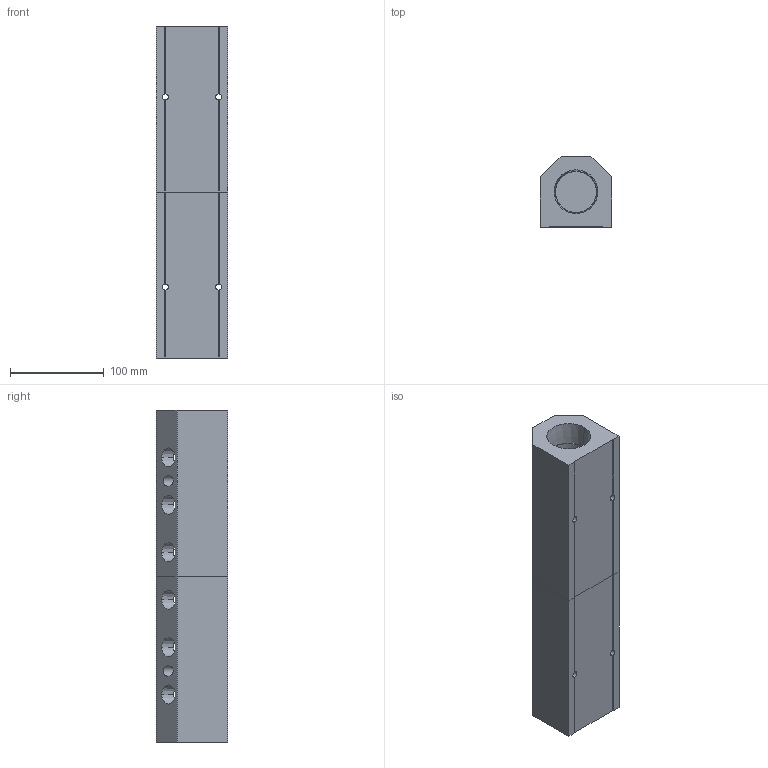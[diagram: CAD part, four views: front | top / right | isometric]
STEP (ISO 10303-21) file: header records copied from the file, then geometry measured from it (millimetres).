
FILE_DESCRIPTION (( 'STEP AP214' ), '1' );
FILE_NAME ('ALM6BCD-N8N24-355RB.step', '2022-02-07T09:39:42', ( '' ), ( '' ), 'SwSTEP 2.0', 'SolidWorks 2020', '' );
FILE_SCHEMA (( 'AUTOMOTIVE_DESIGN' ));
Length unit declared in the file: millimetre
Products named in the file (1): ALM6BCD-N8N24-355RB
Bounding box: 76.2 x 76.2 x 355 mm (x, y, z)
Volume: 1228117.5 mm3; surface area: 182770.6 mm2
Topology: 2 solids, 2 shells, 395 faces, 1081 edges, 718 vertices
Faces by surface type: plane 234, bspline 101, cone 40, cylinder 20
Entity records: 23906 total; most frequent: CARTESIAN_POINT 10844, ORIENTED_EDGE 2162, DIRECTION 1457, EDGE_CURVE 1081, VERTEX_POINT 718, LINE 715, VECTOR 715, EDGE_LOOP 467
